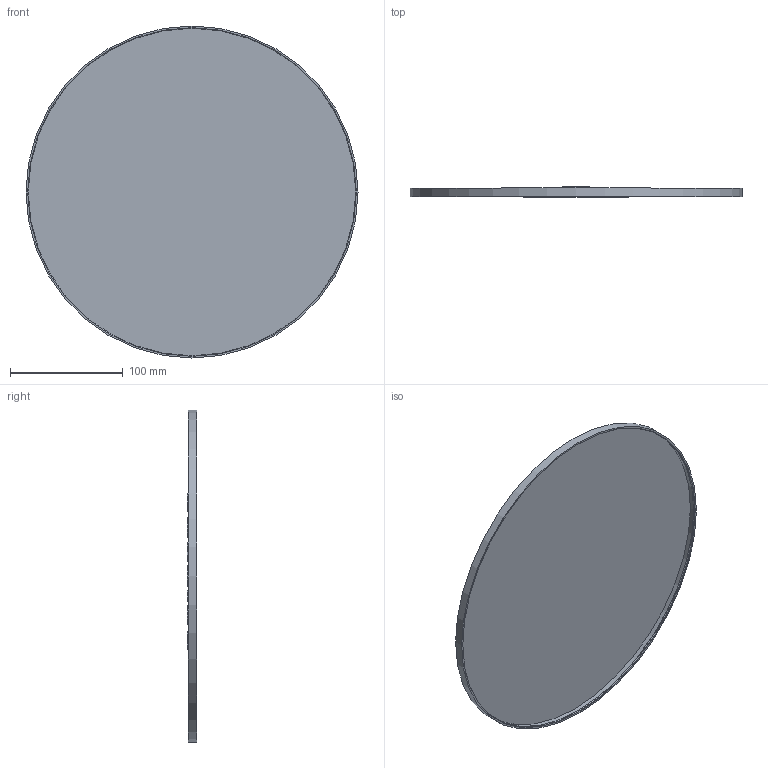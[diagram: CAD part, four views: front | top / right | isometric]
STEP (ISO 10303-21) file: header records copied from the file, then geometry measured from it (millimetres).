
FILE_DESCRIPTION( ( 'Unknown' ), '1' );
FILE_NAME( 'X:/Daten ( aktueller Bestand )/Projekte und Zeichnungen/Solid Edge/13 ISO-K Verbindungsbauteile und Zubehör/Flanschkappe Kunststoff/6045.stp', 'Unknown', ( 'Unknown' ), ( 'Unknown' ), 'XStep 1.0', 'Unknown', ' ' );
FILE_SCHEMA( ( 'automotive_design' ) );
Length unit declared in the file: millimetre
Products named in the file (1): 1
Bounding box: 294 x 8.5 x 294 mm (x, y, z)
Volume: 111701.9 mm3; surface area: 149478 mm2
Topology: 1 solids, 1 shells, 65 faces, 154 edges, 102 vertices
Faces by surface type: plane 48, extrusion 13, cylinder 3, torus 1
Full cylindrical faces by diameter (mm): 291 x2, 294 x1
Entity records: 2898 total; most frequent: CARTESIAN_POINT 1070, ORIENTED_EDGE 292, DIRECTION 175, EDGE_CURVE 146, B_SPLINE_CURVE_WITH_KNOTS 109, VERTEX_POINT 102, EDGE_LOOP 84, FACE_OUTER_BOUND 73
